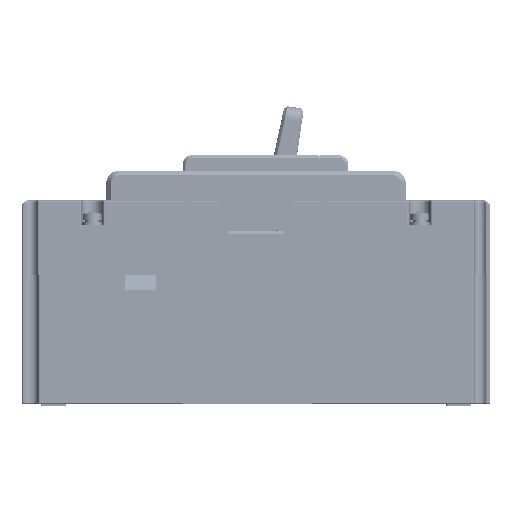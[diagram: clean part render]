
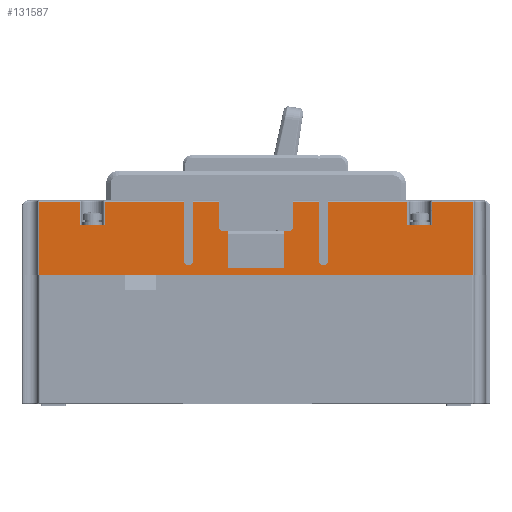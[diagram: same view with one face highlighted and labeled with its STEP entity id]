
A CAD part, left-side view. The second image highlights one B-rep face of the part: STEP entity #131587.
In plain terms, the highlighted planar face has unit normal (-1, 0, 0).
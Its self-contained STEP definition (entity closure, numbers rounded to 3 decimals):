
#105632=DIRECTION('',(0.,-1.,0.));
#105633=VECTOR('',#105632,8.);
#105634=CARTESIAN_POINT('',(-46.,56.5,16.));
#105635=LINE('',#105634,#105633);
#105636=CARTESIAN_POINT('',(-46.,21.7,4.5));
#105637=DIRECTION('',(-1.,0.,0.));
#105638=DIRECTION('',(0.,1.,0.));
#105639=AXIS2_PLACEMENT_3D('',#105636,#105637,#105638);
#105641=DIRECTION('',(0.,0.,1.));
#105642=VECTOR('',#105641,18.8);
#105643=CARTESIAN_POINT('',(-46.,20.2,4.5));
#105644=LINE('',#105643,#105642);
#105645=CARTESIAN_POINT('',(-46.,10.5,15.5));
#105646=DIRECTION('',(-1.,0.,0.));
#105647=DIRECTION('',(0.,1.,0.));
#105648=AXIS2_PLACEMENT_3D('',#105645,#105646,#105647);
#105650=DIRECTION('',(0.,-1.,0.));
#105651=VECTOR('',#105650,1.6);
#105652=CARTESIAN_POINT('',(-46.,10.5,14.));
#105653=LINE('',#105652,#105651);
#105654=DIRECTION('',(0.,0.,-1.));
#105655=VECTOR('',#105654,12.);
#105656=CARTESIAN_POINT('',(-46.,8.9,14.));
#105657=LINE('',#105656,#105655);
#105658=DIRECTION('',(0.,-1.,0.));
#105659=VECTOR('',#105658,17.8);
#105660=CARTESIAN_POINT('',(-46.,8.9,2.));
#105661=LINE('',#105660,#105659);
#105662=DIRECTION('',(0.,-1.,0.));
#105663=VECTOR('',#105662,1.6);
#105664=CARTESIAN_POINT('',(-46.,-8.9,14.));
#105665=LINE('',#105664,#105663);
#105666=CARTESIAN_POINT('',(-46.,-10.5,15.5));
#105667=DIRECTION('',(-1.,0.,0.));
#105668=DIRECTION('',(0.,0.,-1.));
#105669=AXIS2_PLACEMENT_3D('',#105666,#105667,#105668);
#105671=DIRECTION('',(0.,0.,1.));
#105672=VECTOR('',#105671,7.8);
#105673=CARTESIAN_POINT('',(-46.,-12.,15.5));
#105674=LINE('',#105673,#105672);
#105675=CARTESIAN_POINT('',(-46.,-21.7,4.5));
#105676=DIRECTION('',(-1.,0.,0.));
#105677=DIRECTION('',(0.,1.,0.));
#105678=AXIS2_PLACEMENT_3D('',#105675,#105676,#105677);
#105680=DIRECTION('',(0.,0.,1.));
#105681=VECTOR('',#105680,18.8);
#105682=CARTESIAN_POINT('',(-46.,-23.2,4.5));
#105683=LINE('',#105682,#105681);
#105684=DIRECTION('',(0.,-1.,0.));
#105685=VECTOR('',#105684,8.);
#105686=CARTESIAN_POINT('',(-46.,-48.5,16.));
#105687=LINE('',#105686,#105685);
#105688=DIRECTION('',(0.,-1.,0.));
#105689=VECTOR('',#105688,139.101);
#105690=CARTESIAN_POINT('',(-46.,69.551,0.));
#105691=LINE('',#105690,#105689);
#106440=DIRECTION('',(0.,0.,1.));
#106441=VECTOR('',#106440,23.3);
#106442=CARTESIAN_POINT('',(-46.,-69.551,0.));
#106443=LINE('',#106442,#106441);
#106459=DIRECTION('',(0.,1.,0.));
#106460=VECTOR('',#106459,13.051);
#106461=CARTESIAN_POINT('',(-46.,-69.551,23.3));
#106462=LINE('',#106461,#106460);
#106482=DIRECTION('',(0.,0.,-1.));
#106483=VECTOR('',#106482,7.3);
#106484=CARTESIAN_POINT('',(-46.,-56.5,23.3));
#106485=LINE('',#106484,#106483);
#106537=DIRECTION('',(0.,0.,1.));
#106538=VECTOR('',#106537,7.3);
#106539=CARTESIAN_POINT('',(-46.,-48.5,16.));
#106540=LINE('',#106539,#106538);
#106560=DIRECTION('',(0.,1.,0.));
#106561=VECTOR('',#106560,25.3);
#106562=CARTESIAN_POINT('',(-46.,-48.5,23.3));
#106563=LINE('',#106562,#106561);
#106586=DIRECTION('',(0.,0.,1.));
#106587=VECTOR('',#106586,18.8);
#106588=CARTESIAN_POINT('',(-46.,-20.2,4.5));
#106589=LINE('',#106588,#106587);
#106590=DIRECTION('',(0.,1.,0.));
#106591=VECTOR('',#106590,8.2);
#106592=CARTESIAN_POINT('',(-46.,-20.2,23.3));
#106593=LINE('',#106592,#106591);
#106676=DIRECTION('',(0.,0.,1.));
#106677=VECTOR('',#106676,7.8);
#106678=CARTESIAN_POINT('',(-46.,12.,15.5));
#106679=LINE('',#106678,#106677);
#106685=DIRECTION('',(0.,1.,0.));
#106686=VECTOR('',#106685,8.2);
#106687=CARTESIAN_POINT('',(-46.,12.,23.3));
#106688=LINE('',#106687,#106686);
#106715=DIRECTION('',(0.,0.,1.));
#106716=VECTOR('',#106715,18.8);
#106717=CARTESIAN_POINT('',(-46.,23.2,4.5));
#106718=LINE('',#106717,#106716);
#106719=DIRECTION('',(0.,1.,0.));
#106720=VECTOR('',#106719,25.3);
#106721=CARTESIAN_POINT('',(-46.,23.2,23.3));
#106722=LINE('',#106721,#106720);
#106742=DIRECTION('',(0.,0.,-1.));
#106743=VECTOR('',#106742,7.3);
#106744=CARTESIAN_POINT('',(-46.,48.5,23.3));
#106745=LINE('',#106744,#106743);
#114835=DIRECTION('',(0.,0.,-1.));
#114836=VECTOR('',#114835,23.3);
#114837=CARTESIAN_POINT('',(-46.,69.551,23.3));
#114838=LINE('',#114837,#114836);
#122191=DIRECTION('',(0.,1.,0.));
#122192=VECTOR('',#122191,13.051);
#122193=CARTESIAN_POINT('',(-46.,56.5,23.3));
#122194=LINE('',#122193,#122192);
#122214=DIRECTION('',(0.,0.,1.));
#122215=VECTOR('',#122214,7.3);
#122216=CARTESIAN_POINT('',(-46.,56.5,16.));
#122217=LINE('',#122216,#122215);
#124594=DIRECTION('',(0.,0.,-1.));
#124595=VECTOR('',#124594,12.);
#124596=CARTESIAN_POINT('',(-46.,-8.9,14.));
#124597=LINE('',#124596,#124595);
#126061=CARTESIAN_POINT('',(-46.,69.551,0.));
#126062=CARTESIAN_POINT('',(-46.,-69.551,0.));
#126063=VERTEX_POINT('',#126061);
#126064=VERTEX_POINT('',#126062);
#126065=CARTESIAN_POINT('',(-46.,69.551,23.3));
#126066=VERTEX_POINT('',#126065);
#126067=CARTESIAN_POINT('',(-46.,56.5,23.3));
#126068=VERTEX_POINT('',#126067);
#126069=CARTESIAN_POINT('',(-46.,56.5,16.));
#126070=VERTEX_POINT('',#126069);
#126071=CARTESIAN_POINT('',(-46.,48.5,16.));
#126072=VERTEX_POINT('',#126071);
#126073=CARTESIAN_POINT('',(-46.,48.5,23.3));
#126074=VERTEX_POINT('',#126073);
#126075=CARTESIAN_POINT('',(-46.,23.2,23.3));
#126076=VERTEX_POINT('',#126075);
#126077=CARTESIAN_POINT('',(-46.,23.2,4.5));
#126078=VERTEX_POINT('',#126077);
#126079=CARTESIAN_POINT('',(-46.,20.2,4.5));
#126080=VERTEX_POINT('',#126079);
#126081=CARTESIAN_POINT('',(-46.,20.2,23.3));
#126082=VERTEX_POINT('',#126081);
#126083=CARTESIAN_POINT('',(-46.,12.,23.3));
#126084=VERTEX_POINT('',#126083);
#126085=CARTESIAN_POINT('',(-46.,12.,15.5));
#126086=VERTEX_POINT('',#126085);
#126087=CARTESIAN_POINT('',(-46.,10.5,14.));
#126088=VERTEX_POINT('',#126087);
#126089=CARTESIAN_POINT('',(-46.,8.9,14.));
#126090=VERTEX_POINT('',#126089);
#126091=CARTESIAN_POINT('',(-46.,8.9,2.));
#126092=VERTEX_POINT('',#126091);
#126093=CARTESIAN_POINT('',(-46.,-8.9,2.));
#126094=VERTEX_POINT('',#126093);
#126095=CARTESIAN_POINT('',(-46.,-8.9,14.));
#126096=VERTEX_POINT('',#126095);
#126097=CARTESIAN_POINT('',(-46.,-10.5,14.));
#126098=VERTEX_POINT('',#126097);
#126099=CARTESIAN_POINT('',(-46.,-12.,15.5));
#126100=VERTEX_POINT('',#126099);
#126101=CARTESIAN_POINT('',(-46.,-12.,23.3));
#126102=VERTEX_POINT('',#126101);
#126103=CARTESIAN_POINT('',(-46.,-20.2,23.3));
#126104=VERTEX_POINT('',#126103);
#126105=CARTESIAN_POINT('',(-46.,-20.2,4.5));
#126106=VERTEX_POINT('',#126105);
#126107=CARTESIAN_POINT('',(-46.,-23.2,4.5));
#126108=VERTEX_POINT('',#126107);
#126109=CARTESIAN_POINT('',(-46.,-23.2,23.3));
#126110=VERTEX_POINT('',#126109);
#126111=CARTESIAN_POINT('',(-46.,-48.5,23.3));
#126112=VERTEX_POINT('',#126111);
#126113=CARTESIAN_POINT('',(-46.,-48.5,16.));
#126114=VERTEX_POINT('',#126113);
#126115=CARTESIAN_POINT('',(-46.,-56.5,16.));
#126116=VERTEX_POINT('',#126115);
#126117=CARTESIAN_POINT('',(-46.,-56.5,23.3));
#126118=VERTEX_POINT('',#126117);
#126119=CARTESIAN_POINT('',(-46.,-69.551,23.3));
#126120=VERTEX_POINT('',#126119);
#131520=CARTESIAN_POINT('',(-46.,75.,0.));
#131521=DIRECTION('',(-1.,0.,0.));
#131522=DIRECTION('',(0.,-1.,0.));
#131523=AXIS2_PLACEMENT_3D('',#131520,#131521,#131522);
#131524=PLANE('',#131523);
#131526=ORIENTED_EDGE('',*,*,#131525,.F.);
#131528=ORIENTED_EDGE('',*,*,#131527,.F.);
#131530=ORIENTED_EDGE('',*,*,#131529,.F.);
#131532=ORIENTED_EDGE('',*,*,#131531,.F.);
#131534=ORIENTED_EDGE('',*,*,#131533,.T.);
#131536=ORIENTED_EDGE('',*,*,#131535,.F.);
#131538=ORIENTED_EDGE('',*,*,#131537,.F.);
#131540=ORIENTED_EDGE('',*,*,#131539,.F.);
#131542=ORIENTED_EDGE('',*,*,#131541,.T.);
#131544=ORIENTED_EDGE('',*,*,#131543,.T.);
#131546=ORIENTED_EDGE('',*,*,#131545,.F.);
#131548=ORIENTED_EDGE('',*,*,#131547,.F.);
#131550=ORIENTED_EDGE('',*,*,#131549,.T.);
#131552=ORIENTED_EDGE('',*,*,#131551,.T.);
#131554=ORIENTED_EDGE('',*,*,#131553,.T.);
#131556=ORIENTED_EDGE('',*,*,#131555,.T.);
#131558=ORIENTED_EDGE('',*,*,#131557,.F.);
#131560=ORIENTED_EDGE('',*,*,#131559,.T.);
#131562=ORIENTED_EDGE('',*,*,#131561,.T.);
#131564=ORIENTED_EDGE('',*,*,#131563,.T.);
#131566=ORIENTED_EDGE('',*,*,#131565,.F.);
#131568=ORIENTED_EDGE('',*,*,#131567,.F.);
#131570=ORIENTED_EDGE('',*,*,#131569,.T.);
#131572=ORIENTED_EDGE('',*,*,#131571,.T.);
#131574=ORIENTED_EDGE('',*,*,#131573,.F.);
#131576=ORIENTED_EDGE('',*,*,#131575,.F.);
#131578=ORIENTED_EDGE('',*,*,#131577,.T.);
#131580=ORIENTED_EDGE('',*,*,#131579,.F.);
#131582=ORIENTED_EDGE('',*,*,#131581,.F.);
#131584=ORIENTED_EDGE('',*,*,#131583,.F.);
#131585=EDGE_LOOP('',(#131526,#131528,#131530,#131532,#131534,#131536,#131538,
#131540,#131542,#131544,#131546,#131548,#131550,#131552,#131554,#131556,#131558,
#131560,#131562,#131564,#131566,#131568,#131570,#131572,#131574,#131576,#131578,
#131580,#131582,#131584));
#131586=FACE_OUTER_BOUND('',#131585,.F.);
#131587=ADVANCED_FACE('',(#131586),#131524,.T.);
#105640=CIRCLE('',#105639,1.5);
#105649=CIRCLE('',#105648,1.5);
#105670=CIRCLE('',#105669,1.5);
#105679=CIRCLE('',#105678,1.5);
#131525=EDGE_CURVE('',#126063,#126064,#105691,.T.);
#131527=EDGE_CURVE('',#126066,#126063,#114838,.T.);
#131529=EDGE_CURVE('',#126068,#126066,#122194,.T.);
#131531=EDGE_CURVE('',#126070,#126068,#122217,.T.);
#131533=EDGE_CURVE('',#126070,#126072,#105635,.T.);
#131535=EDGE_CURVE('',#126074,#126072,#106745,.T.);
#131537=EDGE_CURVE('',#126076,#126074,#106722,.T.);
#131539=EDGE_CURVE('',#126078,#126076,#106718,.T.);
#131541=EDGE_CURVE('',#126078,#126080,#105640,.T.);
#131543=EDGE_CURVE('',#126080,#126082,#105644,.T.);
#131545=EDGE_CURVE('',#126084,#126082,#106688,.T.);
#131547=EDGE_CURVE('',#126086,#126084,#106679,.T.);
#131549=EDGE_CURVE('',#126086,#126088,#105649,.T.);
#131551=EDGE_CURVE('',#126088,#126090,#105653,.T.);
#131553=EDGE_CURVE('',#126090,#126092,#105657,.T.);
#131555=EDGE_CURVE('',#126092,#126094,#105661,.T.);
#131557=EDGE_CURVE('',#126096,#126094,#124597,.T.);
#131559=EDGE_CURVE('',#126096,#126098,#105665,.T.);
#131561=EDGE_CURVE('',#126098,#126100,#105670,.T.);
#131563=EDGE_CURVE('',#126100,#126102,#105674,.T.);
#131565=EDGE_CURVE('',#126104,#126102,#106593,.T.);
#131567=EDGE_CURVE('',#126106,#126104,#106589,.T.);
#131569=EDGE_CURVE('',#126106,#126108,#105679,.T.);
#131571=EDGE_CURVE('',#126108,#126110,#105683,.T.);
#131573=EDGE_CURVE('',#126112,#126110,#106563,.T.);
#131575=EDGE_CURVE('',#126114,#126112,#106540,.T.);
#131577=EDGE_CURVE('',#126114,#126116,#105687,.T.);
#131579=EDGE_CURVE('',#126118,#126116,#106485,.T.);
#131581=EDGE_CURVE('',#126120,#126118,#106462,.T.);
#131583=EDGE_CURVE('',#126064,#126120,#106443,.T.);
